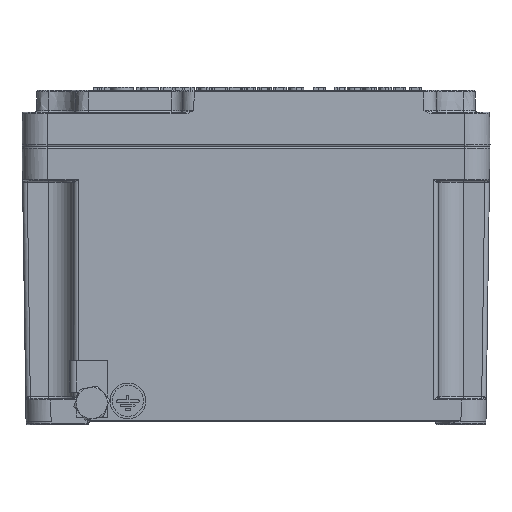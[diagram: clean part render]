
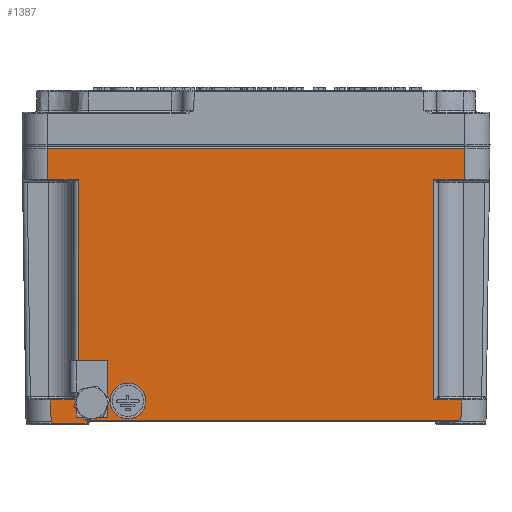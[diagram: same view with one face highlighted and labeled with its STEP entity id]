
A CAD part, left-side view. The second image highlights one B-rep face of the part: STEP entity #1387.
In plain terms, the highlighted planar face has unit normal (-1, 0, -0.015).
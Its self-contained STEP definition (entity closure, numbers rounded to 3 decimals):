
#328=CARTESIAN_POINT('',(-73.63,52.5,8.943));
#329=VERTEX_POINT('',#328);
#337=CARTESIAN_POINT('',(-73.587,52.5,5.993));
#338=DIRECTION('',(-1.,0.,-0.015));
#339=DIRECTION('',(0.015,0.0,-1.));
#340=AXIS2_PLACEMENT_3D('',#337,#338,#339);
#341=ELLIPSE('',#340,2.95,2.95);
#342=EDGE_CURVE('',#329,#329,#341,.T.);
#664=CARTESIAN_POINT('',(-73.68,40.943,12.391));
#665=VERTEX_POINT('',#664);
#666=CARTESIAN_POINT('',(-73.597,40.943,6.692));
#667=DIRECTION('',(1.,0.,0.015));
#668=DIRECTION('',(0.015,0.0,-1.));
#669=AXIS2_PLACEMENT_3D('',#666,#667,#668);
#670=CIRCLE('',#669,5.7);
#671=EDGE_CURVE('',#665,#665,#670,.T.);
#1238=CARTESIAN_POINT('',(-73.5,-73.5,0.0));
#1239=DIRECTION('',(-1.,0.,-0.015));
#1240=DIRECTION('',(0.0,-1.0,0.0));
#1241=AXIS2_PLACEMENT_3D('',#1238,#1239,#1240);
#1242=PLANE('',#1241);
#1243=CARTESIAN_POINT('',(-73.507,53.993,0.493));
#1244=VERTEX_POINT('',#1243);
#1245=CARTESIAN_POINT('',(-73.493,54.007,-0.507));
#1246=VERTEX_POINT('',#1245);
#1247=CARTESIAN_POINT('',(-73.507,53.993,0.493));
#1248=DIRECTION('',(0.015,0.015,-1.));
#1249=VECTOR('',#1248,1.);
#1250=LINE('',#1247,#1249);
#1251=EDGE_CURVE('',#1244,#1246,#1250,.T.);
#1252=ORIENTED_EDGE('',*,*,#1251,.F.);
#1253=CARTESIAN_POINT('',(-73.507,-65.499,0.493));
#1254=VERTEX_POINT('',#1253);
#1255=CARTESIAN_POINT('',(-73.507,53.993,0.493));
#1256=DIRECTION('',(0.0,-1.0,0.0));
#1257=VECTOR('',#1256,119.492);
#1258=LINE('',#1255,#1257);
#1259=EDGE_CURVE('',#1244,#1254,#1258,.T.);
#1260=ORIENTED_EDGE('',*,*,#1259,.T.);
#1261=CARTESIAN_POINT('',(-73.5,-65.499,0.0));
#1262=VERTEX_POINT('',#1261);
#1263=CARTESIAN_POINT('',(-73.507,-65.499,0.493));
#1264=DIRECTION('',(0.015,0.0,-1.));
#1265=VECTOR('',#1264,0.493);
#1266=LINE('',#1263,#1265);
#1267=EDGE_CURVE('',#1254,#1262,#1266,.T.);
#1268=ORIENTED_EDGE('',*,*,#1267,.T.);
#1269=CARTESIAN_POINT('',(-73.5,-65.501,0.0));
#1270=VERTEX_POINT('',#1269);
#1271=CARTESIAN_POINT('',(-73.5,-65.499,0.0));
#1272=DIRECTION('',(0.0,-1.0,0.0));
#1273=VECTOR('',#1272,0.002);
#1274=LINE('',#1271,#1273);
#1275=EDGE_CURVE('',#1262,#1270,#1274,.T.);
#1276=ORIENTED_EDGE('',*,*,#1275,.T.);
#1277=CARTESIAN_POINT('',(-73.602,-65.603,6.993));
#1278=VERTEX_POINT('',#1277);
#1279=CARTESIAN_POINT('',(-73.602,-65.603,6.993));
#1280=DIRECTION('',(0.015,0.015,-1.));
#1281=VECTOR('',#1280,6.994);
#1282=LINE('',#1279,#1281);
#1283=EDGE_CURVE('',#1278,#1270,#1282,.T.);
#1284=ORIENTED_EDGE('',*,*,#1283,.F.);
#1285=CARTESIAN_POINT('',(-73.602,-56.802,6.993));
#1286=VERTEX_POINT('',#1285);
#1287=CARTESIAN_POINT('',(-73.602,-56.802,6.993));
#1288=DIRECTION('',(0.0,-1.0,0.0));
#1289=VECTOR('',#1288,8.8);
#1290=LINE('',#1287,#1289);
#1291=EDGE_CURVE('',#1286,#1278,#1290,.T.);
#1292=ORIENTED_EDGE('',*,*,#1291,.F.);
#1293=CARTESIAN_POINT('',(-74.627,-56.787,77.493));
#1294=VERTEX_POINT('',#1293);
#1295=CARTESIAN_POINT('',(-74.627,-56.787,77.493));
#1296=DIRECTION('',(0.015,0.,-1.));
#1297=VECTOR('',#1296,70.507);
#1298=LINE('',#1295,#1297);
#1299=EDGE_CURVE('',#1294,#1286,#1298,.T.);
#1300=ORIENTED_EDGE('',*,*,#1299,.F.);
#1301=CARTESIAN_POINT('',(-74.627,-66.628,77.493));
#1302=VERTEX_POINT('',#1301);
#1303=CARTESIAN_POINT('',(-74.627,-66.628,77.493));
#1304=DIRECTION('',(0.0,1.0,0.0));
#1305=VECTOR('',#1304,9.84);
#1306=LINE('',#1303,#1305);
#1307=EDGE_CURVE('',#1302,#1294,#1306,.T.);
#1308=ORIENTED_EDGE('',*,*,#1307,.F.);
#1309=CARTESIAN_POINT('',(-74.772,-66.773,87.493));
#1310=VERTEX_POINT('',#1309);
#1311=CARTESIAN_POINT('',(-74.772,-66.773,87.493));
#1312=DIRECTION('',(0.015,0.015,-1.));
#1313=VECTOR('',#1312,10.002);
#1314=LINE('',#1311,#1313);
#1315=EDGE_CURVE('',#1310,#1302,#1314,.T.);
#1316=ORIENTED_EDGE('',*,*,#1315,.F.);
#1317=CARTESIAN_POINT('',(-74.772,66.773,87.493));
#1318=VERTEX_POINT('',#1317);
#1319=CARTESIAN_POINT('',(-74.772,66.773,87.493));
#1320=DIRECTION('',(0.0,-1.0,0.0));
#1321=VECTOR('',#1320,133.546);
#1322=LINE('',#1319,#1321);
#1323=EDGE_CURVE('',#1318,#1310,#1322,.T.);
#1324=ORIENTED_EDGE('',*,*,#1323,.F.);
#1325=CARTESIAN_POINT('',(-74.627,66.628,77.493));
#1326=VERTEX_POINT('',#1325);
#1327=CARTESIAN_POINT('',(-74.627,66.628,77.493));
#1328=DIRECTION('',(-0.015,0.015,1.));
#1329=VECTOR('',#1328,10.002);
#1330=LINE('',#1327,#1329);
#1331=EDGE_CURVE('',#1326,#1318,#1330,.T.);
#1332=ORIENTED_EDGE('',*,*,#1331,.F.);
#1333=CARTESIAN_POINT('',(-74.627,56.787,77.493));
#1334=VERTEX_POINT('',#1333);
#1335=CARTESIAN_POINT('',(-74.627,56.787,77.493));
#1336=DIRECTION('',(0.0,1.0,0.0));
#1337=VECTOR('',#1336,9.84);
#1338=LINE('',#1335,#1337);
#1339=EDGE_CURVE('',#1334,#1326,#1338,.T.);
#1340=ORIENTED_EDGE('',*,*,#1339,.F.);
#1341=CARTESIAN_POINT('',(-73.602,56.802,6.993));
#1342=VERTEX_POINT('',#1341);
#1343=CARTESIAN_POINT('',(-73.602,56.802,6.993));
#1344=DIRECTION('',(-0.015,0.,1.));
#1345=VECTOR('',#1344,70.507);
#1346=LINE('',#1343,#1345);
#1347=EDGE_CURVE('',#1342,#1334,#1346,.T.);
#1348=ORIENTED_EDGE('',*,*,#1347,.F.);
#1349=CARTESIAN_POINT('',(-73.602,65.603,6.993));
#1350=VERTEX_POINT('',#1349);
#1351=CARTESIAN_POINT('',(-73.602,65.603,6.993));
#1352=DIRECTION('',(0.0,-1.0,0.0));
#1353=VECTOR('',#1352,8.8);
#1354=LINE('',#1351,#1353);
#1355=EDGE_CURVE('',#1350,#1342,#1354,.T.);
#1356=ORIENTED_EDGE('',*,*,#1355,.F.);
#1357=CARTESIAN_POINT('',(-73.5,65.501,0.0));
#1358=VERTEX_POINT('',#1357);
#1359=CARTESIAN_POINT('',(-73.5,65.501,0.));
#1360=DIRECTION('',(-0.015,0.015,1.));
#1361=VECTOR('',#1360,6.994);
#1362=LINE('',#1359,#1361);
#1363=EDGE_CURVE('',#1358,#1350,#1362,.T.);
#1364=ORIENTED_EDGE('',*,*,#1363,.F.);
#1365=CARTESIAN_POINT('',(-73.493,65.501,-0.507));
#1366=VERTEX_POINT('',#1365);
#1367=CARTESIAN_POINT('',(-73.5,65.501,0.0));
#1368=DIRECTION('',(0.015,0.0,-1.));
#1369=VECTOR('',#1368,0.507);
#1370=LINE('',#1367,#1369);
#1371=EDGE_CURVE('',#1358,#1366,#1370,.T.);
#1372=ORIENTED_EDGE('',*,*,#1371,.T.);
#1373=CARTESIAN_POINT('',(-73.493,54.007,-0.507));
#1374=DIRECTION('',(0.0,1.0,0.0));
#1375=VECTOR('',#1374,11.494);
#1376=LINE('',#1373,#1375);
#1377=EDGE_CURVE('',#1246,#1366,#1376,.T.);
#1378=ORIENTED_EDGE('',*,*,#1377,.F.);
#1379=EDGE_LOOP('',(#1252,#1260,#1268,#1276,#1284,#1292,#1300,#1308,#1316,#1324,#1332,#1340,#1348,#1356,#1364,#1372,#1378));
#1380=FACE_OUTER_BOUND('',#1379,.T.);
#1381=ORIENTED_EDGE('',*,*,#342,.F.);
#1382=EDGE_LOOP('',(#1381));
#1383=FACE_BOUND('',#1382,.T.);
#1384=ORIENTED_EDGE('',*,*,#671,.T.);
#1385=EDGE_LOOP('',(#1384));
#1386=FACE_BOUND('',#1385,.T.);
#1387=ADVANCED_FACE('',(#1380,#1383,#1386),#1242,.T.);
